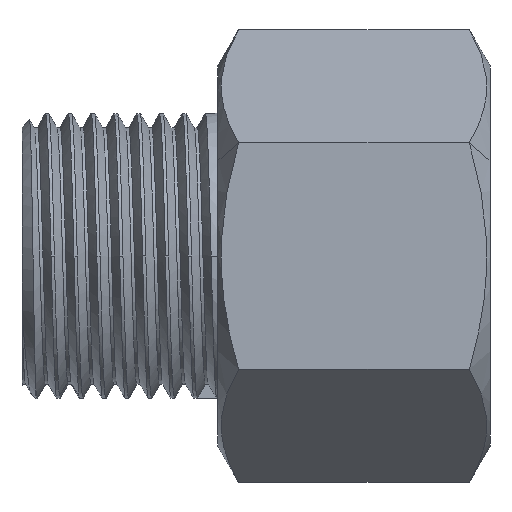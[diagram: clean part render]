
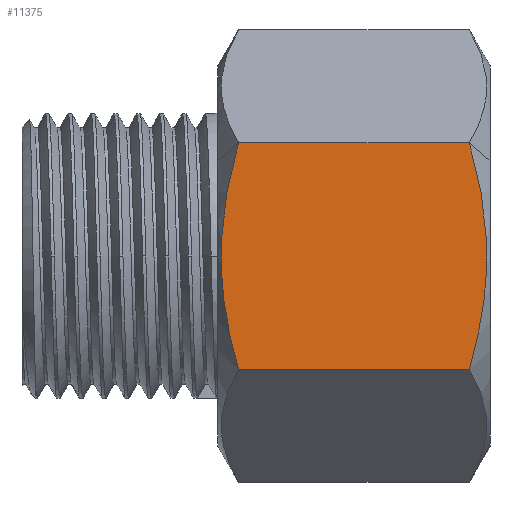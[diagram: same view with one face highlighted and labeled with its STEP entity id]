
A CAD part, left-side view. The second image highlights one B-rep face of the part: STEP entity #11375.
In plain terms, the highlighted planar face has unit normal (-1, 0, 0).
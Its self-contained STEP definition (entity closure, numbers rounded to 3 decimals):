
#87=DIRECTION('',(0.,1.,0.));
#88=VECTOR('',#87,21.207);
#89=CARTESIAN_POINT('',(-18.,1.896,10.392));
#90=LINE('',#89,#88);
#4044=CARTESIAN_POINT('',(-18.,23.104,-10.392));
#4045=CARTESIAN_POINT('',(-18.,23.339,-9.576));
#4046=CARTESIAN_POINT('',(-18.,23.761,-7.97));
#4047=CARTESIAN_POINT('',(-18.,24.232,-5.67));
#4048=CARTESIAN_POINT('',(-18.,24.554,-3.398));
#4049=CARTESIAN_POINT('',(-18.,24.718,-1.133));
#4050=CARTESIAN_POINT('',(-18.,24.718,1.135));
#4051=CARTESIAN_POINT('',(-18.,24.554,3.4));
#4052=CARTESIAN_POINT('',(-18.,24.232,5.672));
#4053=CARTESIAN_POINT('',(-18.,23.761,7.971));
#4054=CARTESIAN_POINT('',(-18.,23.339,9.576));
#4055=CARTESIAN_POINT('',(-18.,23.104,10.392));
#4057=CARTESIAN_POINT('',(-18.,1.896,-10.392));
#4058=CARTESIAN_POINT('',(-18.,1.661,-9.576));
#4059=CARTESIAN_POINT('',(-18.,1.239,-7.97));
#4060=CARTESIAN_POINT('',(-18.,0.768,-5.67));
#4061=CARTESIAN_POINT('',(-18.,0.446,-3.398));
#4062=CARTESIAN_POINT('',(-18.,0.282,-1.133));
#4063=CARTESIAN_POINT('',(-18.,0.282,1.135));
#4064=CARTESIAN_POINT('',(-18.,0.446,3.4));
#4065=CARTESIAN_POINT('',(-18.,0.768,5.672));
#4066=CARTESIAN_POINT('',(-18.,1.239,7.971));
#4067=CARTESIAN_POINT('',(-18.,1.661,9.576));
#4068=CARTESIAN_POINT('',(-18.,1.896,10.392));
#4070=DIRECTION('',(0.,1.,0.));
#4071=VECTOR('',#4070,21.207);
#4072=CARTESIAN_POINT('',(-18.,1.896,-10.392));
#4073=LINE('',#4072,#4071);
#4085=CARTESIAN_POINT('',(-18.,23.104,-10.392));
#4098=CARTESIAN_POINT('',(-18.,1.896,-10.392));
#5731=VERTEX_POINT('',#4085);
#5732=VERTEX_POINT('',#4098);
#5733=VERTEX_POINT('',#4055);
#5734=VERTEX_POINT('',#4068);
#11363=CARTESIAN_POINT('',(-18.,0.,-10.392));
#11364=DIRECTION('',(-1.,0.,0.));
#11365=DIRECTION('',(0.,0.,1.));
#11366=AXIS2_PLACEMENT_3D('',#11363,#11364,#11365);
#11367=PLANE('',#11366);
#11368=ORIENTED_EDGE('',*,*,#11353,.T.);
#11369=ORIENTED_EDGE('',*,*,#6286,.F.);
#11370=ORIENTED_EDGE('',*,*,#6252,.F.);
#11372=ORIENTED_EDGE('',*,*,#11371,.T.);
#11373=EDGE_LOOP('',(#11368,#11369,#11370,#11372));
#11374=FACE_OUTER_BOUND('',#11373,.F.);
#11375=ADVANCED_FACE('',(#11374),#11367,.T.);
#4056=B_SPLINE_CURVE_WITH_KNOTS('',3,(#4044,#4045,#4046,#4047,#4048,#4049,#4050,
#4051,#4052,#4053,#4054,#4055),.UNSPECIFIED.,.F.,.F.,(4,1,1,1,1,1,1,1,1,4),
(0.,0.111,0.222,0.333,0.444,
0.556,0.667,0.778,0.889,1.),
.UNSPECIFIED.);
#4069=B_SPLINE_CURVE_WITH_KNOTS('',3,(#4057,#4058,#4059,#4060,#4061,#4062,#4063,
#4064,#4065,#4066,#4067,#4068),.UNSPECIFIED.,.F.,.F.,(4,1,1,1,1,1,1,1,1,4),
(0.,0.111,0.222,0.333,0.444,
0.556,0.667,0.778,0.889,1.),
.UNSPECIFIED.);
#6252=EDGE_CURVE('',#5732,#5734,#4069,.T.);
#6286=EDGE_CURVE('',#5734,#5733,#90,.T.);
#11353=EDGE_CURVE('',#5731,#5733,#4056,.T.);
#11371=EDGE_CURVE('',#5732,#5731,#4073,.T.);
